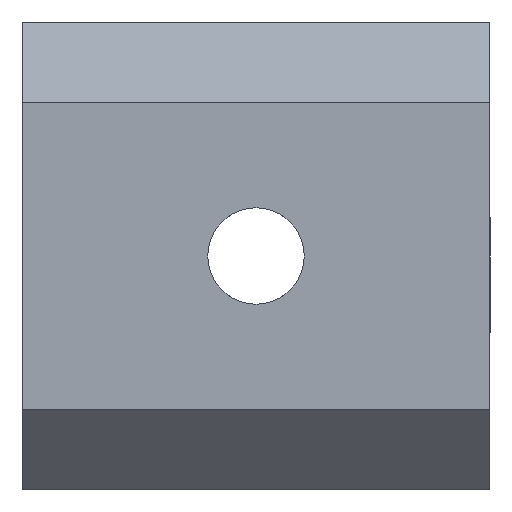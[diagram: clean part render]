
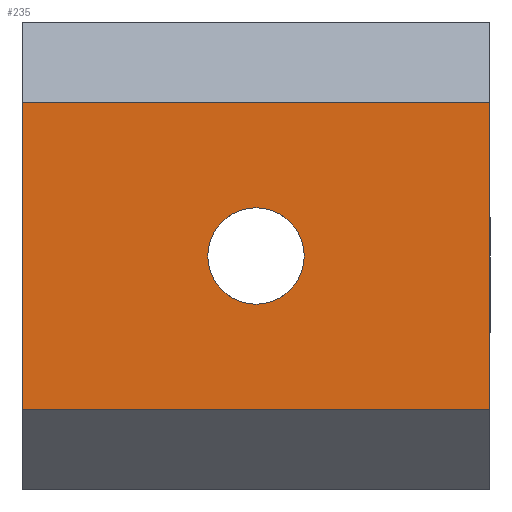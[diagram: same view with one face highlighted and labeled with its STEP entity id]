
A CAD part, front view. The second image highlights one B-rep face of the part: STEP entity #235.
In plain terms, the highlighted planar face has unit normal (0, -1, 0).
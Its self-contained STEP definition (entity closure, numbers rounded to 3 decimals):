
#6 = ORIENTED_EDGE ( 'NONE', *, *, #446, .T. ) ;
#9 = CARTESIAN_POINT ( 'NONE',  ( -8., -6., 5.25 ) ) ;
#11 = CARTESIAN_POINT ( 'NONE',  ( 0., -6., 0. ) ) ;
#16 = AXIS2_PLACEMENT_3D ( 'NONE', #324, #217, #434 ) ;
#55 = ORIENTED_EDGE ( 'NONE', *, *, #372, .T. ) ;
#73 = DIRECTION ( 'NONE',  ( 0., -1., 0. ) ) ;
#95 = CIRCLE ( 'NONE', #130, 1.65 ) ;
#121 = CARTESIAN_POINT ( 'NONE',  ( -8., -6., 5.25 ) ) ;
#130 = AXIS2_PLACEMENT_3D ( 'NONE', #11, #183, #549 ) ;
#149 = CARTESIAN_POINT ( 'NONE',  ( 8., -6., 5.25 ) ) ;
#153 = EDGE_CURVE ( 'NONE', #575, #627, #545, .T. ) ;
#160 = CARTESIAN_POINT ( 'NONE',  ( -8., -6., -5.25 ) ) ;
#172 = DIRECTION ( 'NONE',  ( -1., 0., 0. ) ) ;
#183 = DIRECTION ( 'NONE',  ( 0., -1., 0. ) ) ;
#189 = CIRCLE ( 'NONE', #16, 1.65 ) ;
#193 = VERTEX_POINT ( 'NONE', #443 ) ;
#203 = EDGE_CURVE ( 'NONE', #584, #193, #95, .T. ) ;
#217 = DIRECTION ( 'NONE',  ( 0., -1., 0. ) ) ;
#220 = DIRECTION ( 'NONE',  ( 0., 0., 1. ) ) ;
#235 = ADVANCED_FACE ( 'NONE', ( #279, #496 ), #383, .T. ) ;
#258 = ORIENTED_EDGE ( 'NONE', *, *, #530, .F. ) ;
#263 = LINE ( 'NONE', #149, #449 ) ;
#279 = FACE_BOUND ( 'NONE', #525, .T. ) ;
#287 = VECTOR ( 'NONE', #172, 1000. ) ;
#308 = CARTESIAN_POINT ( 'NONE',  ( 8., -6., -5.25 ) ) ;
#318 = AXIS2_PLACEMENT_3D ( 'NONE', #330, #73, #328 ) ;
#322 = CARTESIAN_POINT ( 'NONE',  ( 8., -6., 5.25 ) ) ;
#324 = CARTESIAN_POINT ( 'NONE',  ( 0., -6., 0. ) ) ;
#328 = DIRECTION ( 'NONE',  ( 0., 0., -1. ) ) ;
#330 = CARTESIAN_POINT ( 'NONE',  ( -8., -6., 5.25 ) ) ;
#344 = VERTEX_POINT ( 'NONE', #629 ) ;
#354 = LINE ( 'NONE', #574, #684 ) ;
#357 = VERTEX_POINT ( 'NONE', #308 ) ;
#372 = EDGE_CURVE ( 'NONE', #627, #344, #354, .T. ) ;
#383 = PLANE ( 'NONE',  #318 ) ;
#434 = DIRECTION ( 'NONE',  ( 0., 0., -1. ) ) ;
#436 = ORIENTED_EDGE ( 'NONE', *, *, #203, .F. ) ;
#439 = CARTESIAN_POINT ( 'NONE',  ( 0., -6., -1.65 ) ) ;
#443 = CARTESIAN_POINT ( 'NONE',  ( 0., -6., 1.65 ) ) ;
#446 = EDGE_CURVE ( 'NONE', #357, #575, #263, .T. ) ;
#449 = VECTOR ( 'NONE', #220, 1000. ) ;
#460 = VECTOR ( 'NONE', #699, 1000. ) ;
#496 = FACE_OUTER_BOUND ( 'NONE', #516, .T. ) ;
#506 = EDGE_CURVE ( 'NONE', #344, #357, #646, .T. ) ;
#516 = EDGE_LOOP ( 'NONE', ( #6, #620, #55, #594 ) ) ;
#525 = EDGE_LOOP ( 'NONE', ( #258, #436 ) ) ;
#526 = DIRECTION ( 'NONE',  ( 0., 0., -1. ) ) ;
#530 = EDGE_CURVE ( 'NONE', #193, #584, #189, .T. ) ;
#545 = LINE ( 'NONE', #9, #287 ) ;
#549 = DIRECTION ( 'NONE',  ( 0., 0., -1. ) ) ;
#574 = CARTESIAN_POINT ( 'NONE',  ( -8., -6., 5.25 ) ) ;
#575 = VERTEX_POINT ( 'NONE', #322 ) ;
#584 = VERTEX_POINT ( 'NONE', #439 ) ;
#594 = ORIENTED_EDGE ( 'NONE', *, *, #506, .T. ) ;
#620 = ORIENTED_EDGE ( 'NONE', *, *, #153, .T. ) ;
#627 = VERTEX_POINT ( 'NONE', #121 ) ;
#629 = CARTESIAN_POINT ( 'NONE',  ( -8., -6., -5.25 ) ) ;
#646 = LINE ( 'NONE', #160, #460 ) ;
#684 = VECTOR ( 'NONE', #526, 1000. ) ;
#699 = DIRECTION ( 'NONE',  ( 1., 0., 0. ) ) ;
